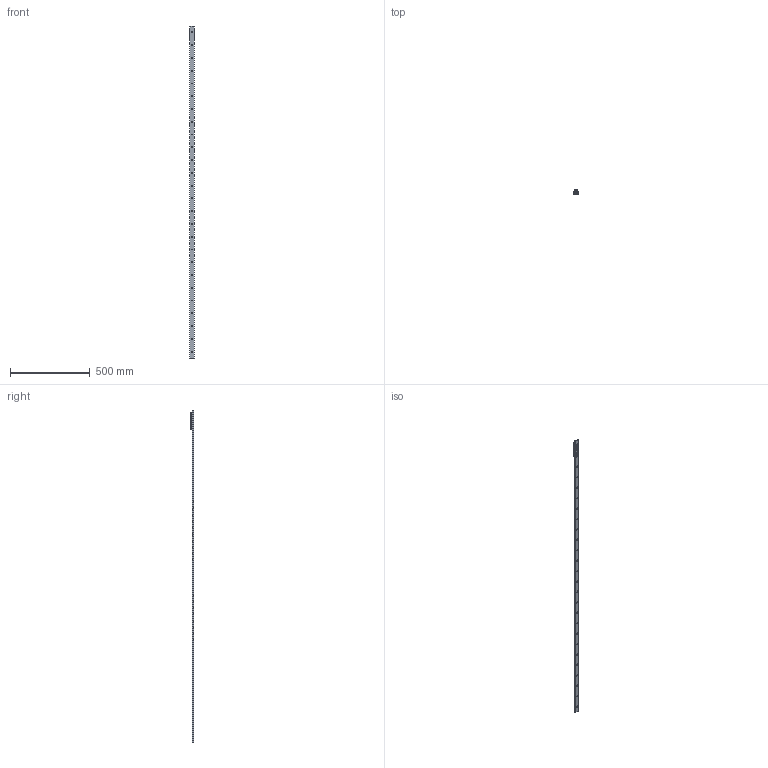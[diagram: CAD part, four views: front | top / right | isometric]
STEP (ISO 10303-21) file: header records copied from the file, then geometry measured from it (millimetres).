
FILE_DESCRIPTION( ( 'STEP AP214' ), '1' );
FILE_NAME( 'p:/temp/worker_23/temp/exporttempdir_3620_303_78GW5/format_2/TGV-02080_1_RV28G-3.stp', '2020-11-20T16:37:57', ( 'License CC BY-ND 4.0' ), ( 'CADENAS' ), ' ', 'PARTsolutions', ' ' );
FILE_SCHEMA( ( 'AUTOMOTIVE_DESIGN { 1 0 10303 214 1 1 1 1 }' ) );
Length unit declared in the file: millimetre
Products named in the file (6): TGV-02080/1/RV28G-3; _TGV28-2080-(3-1); _RV28G-3-slider; _RGNV28R; _RGAV28R; _WR28G-01
Assembly tree (7 placements, depth 2):
  TGV-02080/1/RV28G-3
    _TGV28-2080-(3-1)
    _RV28G-3-slider
    _RGNV28R  x2
    _RGAV28R
    _WR28G-01  x2
Bounding box: 28 x 24 x 2080 mm (x, y, z)
Volume: 336801.8 mm3; surface area: 215761.6 mm2
Topology: 7 solids, 7 shells, 1064 faces, 2775 edges, 1807 vertices
Faces by surface type: plane 657, cylinder 306, cone 66, bspline 26, torus 9
Full cylindrical faces by diameter (mm): 1.27 x4, 2 x2, 2.5 x6, 4 x4, 4.134 x4, 4.2 x3, 5 x3, 5.5 x3, 5.75 x26, 7 x5, 7.5 x1, 8 x6, 10.8 x3, 17 x3, 20.75 x6
Entity records: 25871 total; most frequent: CARTESIAN_POINT 4083, DIRECTION 3460, ORIENTED_EDGE 3150, EDGE_CURVE 1575, AXIS2_PLACEMENT_3D 1335, VERTEX_POINT 1107, EDGE_LOOP 947, LINE 790
